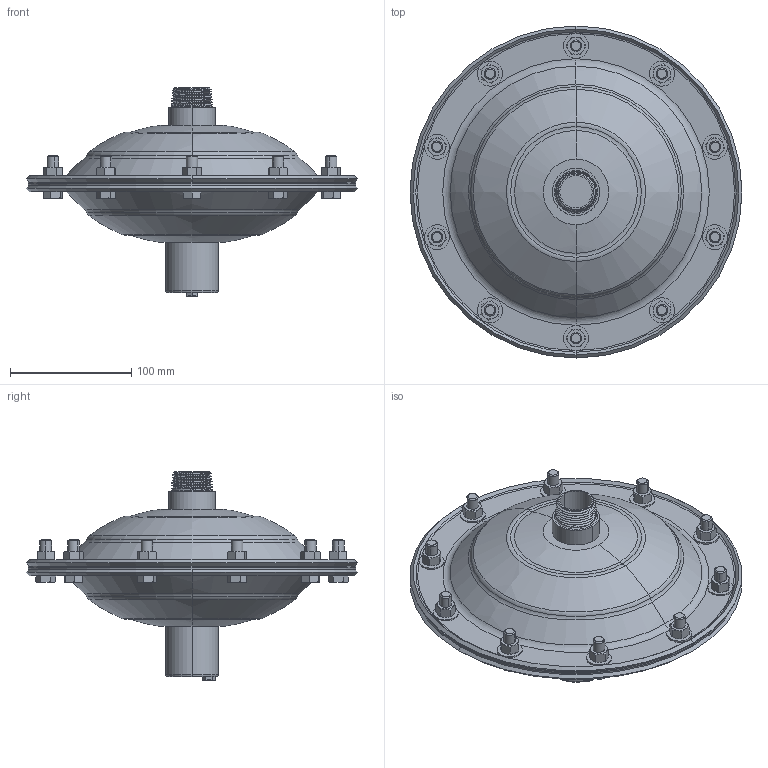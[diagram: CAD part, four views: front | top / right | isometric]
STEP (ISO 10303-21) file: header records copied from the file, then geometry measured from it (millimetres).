
FILE_DESCRIPTION (( 'STEP AP203' ), '1' );
FILE_NAME ('ISD220 1.STEP', '2022-07-04T17:17:01', ( '' ), ( '' ), 'SwSTEP 2.0', 'SolidWorks 2019', '' );
FILE_SCHEMA (( 'CONFIG_CONTROL_DESIGN' ));
Length unit declared in the file: inch
Products named in the file (1): ISD220 1
Bounding box: 273.9 x 273.9 x 172.27 mm (x, y, z)
Volume: 2448329.6 mm3; surface area: 179154.3 mm2
Topology: 1 solids, 1 shells, 797 faces, 1903 edges, 1176 vertices
Faces by surface type: cone 294, plane 250, cylinder 170, torus 68, bspline 15
Entity records: 32554 total; most frequent: CARTESIAN_POINT 14744, ORIENTED_EDGE 3806, DIRECTION 3569, EDGE_CURVE 1903, AXIS2_PLACEMENT_3D 1543, VERTEX_POINT 1176, EDGE_LOOP 881, FACE_OUTER_BOUND 797
